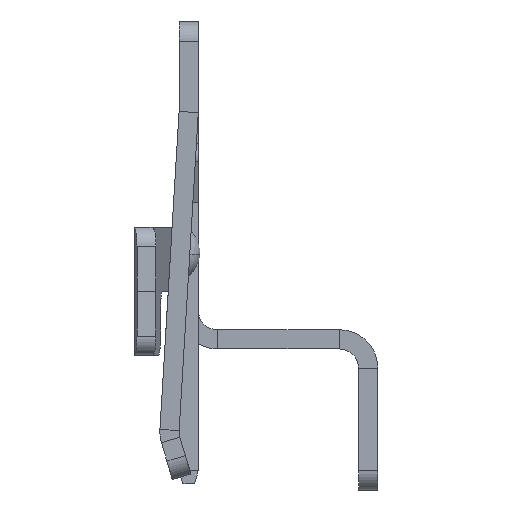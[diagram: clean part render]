
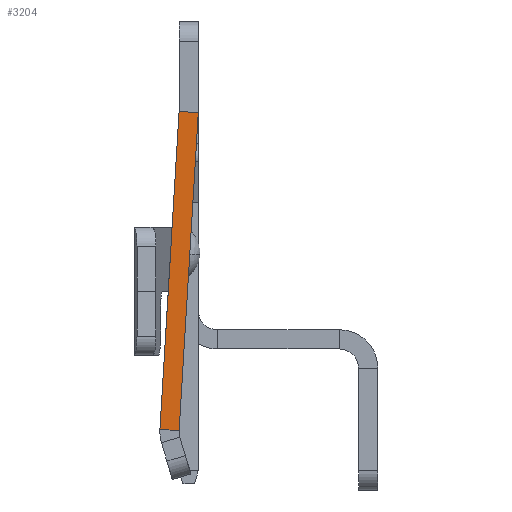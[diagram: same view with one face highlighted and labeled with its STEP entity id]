
A CAD part, left-side view. The second image highlights one B-rep face of the part: STEP entity #3204.
In plain terms, the highlighted planar face has unit normal (-1, 0, 0).
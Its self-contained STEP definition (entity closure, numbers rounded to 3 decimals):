
#1075=DIRECTION('',(0.,-0.06,0.998));
#1076=VECTOR('',#1075,2.486);
#1077=CARTESIAN_POINT('',(-6.05,0.4,-1.586));
#1078=LINE('',#1077,#1076);
#1089=DIRECTION('',(0.,0.998,0.06));
#1090=VECTOR('',#1089,0.15);
#1091=CARTESIAN_POINT('',(-6.05,0.4,-1.586));
#1092=LINE('',#1091,#1090);
#1093=DIRECTION('',(0.,-0.06,0.998));
#1094=VECTOR('',#1093,2.482);
#1095=CARTESIAN_POINT('',(-6.05,0.549,-1.577));
#1096=LINE('',#1095,#1094);
#1097=DIRECTION('',(0.,-1.,-0.03));
#1098=VECTOR('',#1097,0.15);
#1099=CARTESIAN_POINT('',(-6.05,0.4,0.9));
#1100=LINE('',#1099,#1098);
#1365=CARTESIAN_POINT('',(-6.05,0.4,0.9));
#1366=VERTEX_POINT('',#1365);
#1613=CARTESIAN_POINT('',(-6.05,0.25,0.895));
#1614=VERTEX_POINT('',#1613);
#1673=CARTESIAN_POINT('',(-6.05,0.4,-1.586));
#1674=VERTEX_POINT('',#1673);
#1681=CARTESIAN_POINT('',(-6.05,0.549,-1.577));
#1682=VERTEX_POINT('',#1681);
#3190=CARTESIAN_POINT('',(-6.05,0.4,-0.343));
#3191=DIRECTION('',(1.,0.,0.));
#3192=DIRECTION('',(0.,0.06,-0.998));
#3193=AXIS2_PLACEMENT_3D('',#3190,#3191,#3192);
#3194=PLANE('',#3193);
#3195=ORIENTED_EDGE('',*,*,#3174,.F.);
#3197=ORIENTED_EDGE('',*,*,#3196,.T.);
#3199=ORIENTED_EDGE('',*,*,#3198,.T.);
#3201=ORIENTED_EDGE('',*,*,#3200,.T.);
#3202=EDGE_LOOP('',(#3195,#3197,#3199,#3201));
#3203=FACE_OUTER_BOUND('',#3202,.F.);
#3204=ADVANCED_FACE('',(#3203),#3194,.F.);
#3174=EDGE_CURVE('',#1674,#1614,#1078,.T.);
#3196=EDGE_CURVE('',#1674,#1682,#1092,.T.);
#3198=EDGE_CURVE('',#1682,#1366,#1096,.T.);
#3200=EDGE_CURVE('',#1366,#1614,#1100,.T.);
